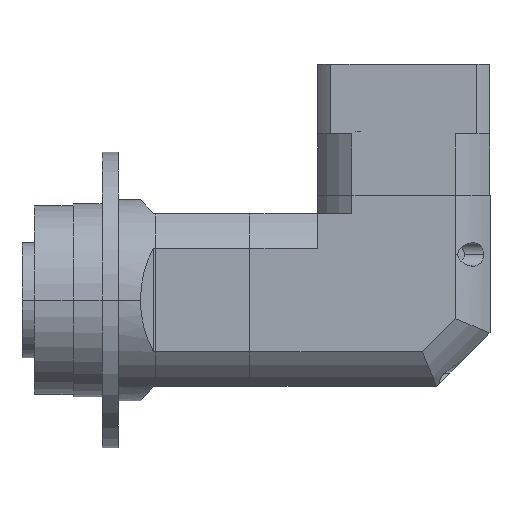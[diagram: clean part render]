
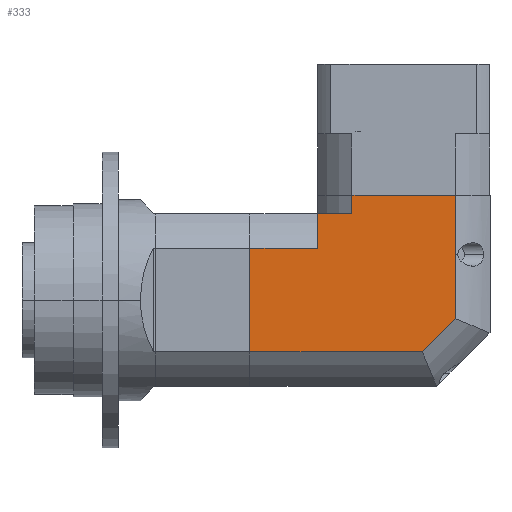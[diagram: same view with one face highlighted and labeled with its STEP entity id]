
A CAD part, left-side view. The second image highlights one B-rep face of the part: STEP entity #333.
In plain terms, the highlighted planar face has unit normal (-1, 0, 0) as drawn and (1, 0, 0) by its records, which use the part's own axes.
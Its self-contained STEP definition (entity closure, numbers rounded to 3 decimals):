
#333 = ADVANCED_FACE ( 'NONE', ( #1412 ), #4387, .F. ) ;
#488 = CARTESIAN_POINT ( 'NONE',  ( 21., 21., 58.5 ) ) ;
#715 = VECTOR ( 'NONE', #6143, 1000. ) ;
#862 = EDGE_CURVE ( 'NONE', #7611, #3794, #4829, .T. ) ;
#1037 = CARTESIAN_POINT ( 'NONE',  ( 21., 21., 58.5 ) ) ;
#1039 = VECTOR ( 'NONE', #4959, 1000. ) ;
#1225 = EDGE_CURVE ( 'NONE', #7333, #3462, #4112, .T. ) ;
#1227 = VECTOR ( 'NONE', #2080, 1000. ) ;
#1270 = CARTESIAN_POINT ( 'NONE',  ( 21., 21., 33.619 ) ) ;
#1364 = ORIENTED_EDGE ( 'NONE', *, *, #3768, .F. ) ;
#1412 = FACE_OUTER_BOUND ( 'NONE', #8045, .T. ) ;
#1999 = EDGE_CURVE ( 'NONE', #3794, #7534, #4913, .T. ) ;
#2030 = VECTOR ( 'NONE', #4488, 1000. ) ;
#2066 = CARTESIAN_POINT ( 'NONE',  ( 21., 25.5, 8.381 ) ) ;
#2080 = DIRECTION ( 'NONE',  ( 0., -1., 0. ) ) ;
#2549 = CARTESIAN_POINT ( 'NONE',  ( 21., 25.5, 0. ) ) ;
#2896 = LINE ( 'NONE', #5176, #1227 ) ;
#3037 = VERTEX_POINT ( 'NONE', #3441 ) ;
#3041 = CARTESIAN_POINT ( 'NONE',  ( 21., -12.619, 16.471 ) ) ;
#3287 = DIRECTION ( 'NONE',  ( 0., 0., 1. ) ) ;
#3370 = EDGE_CURVE ( 'NONE', #6197, #4407, #8193, .T. ) ;
#3409 = LINE ( 'NONE', #6857, #5493 ) ;
#3441 = CARTESIAN_POINT ( 'NONE',  ( 21., 12.619, 42. ) ) ;
#3462 = VERTEX_POINT ( 'NONE', #1270 ) ;
#3581 = CARTESIAN_POINT ( 'NONE',  ( 21., 12.619, 58.5 ) ) ;
#3748 = LINE ( 'NONE', #8051, #8132 ) ;
#3768 = EDGE_CURVE ( 'NONE', #3037, #7333, #6983, .T. ) ;
#3794 = VERTEX_POINT ( 'NONE', #3041 ) ;
#3819 = ORIENTED_EDGE ( 'NONE', *, *, #1225, .F. ) ;
#4048 = CARTESIAN_POINT ( 'NONE',  ( 21., 21., 42. ) ) ;
#4069 = CARTESIAN_POINT ( 'NONE',  ( 21., 25.5, 33.619 ) ) ;
#4112 = LINE ( 'NONE', #1037, #715 ) ;
#4159 = VECTOR ( 'NONE', #5468, 1000. ) ;
#4199 = EDGE_CURVE ( 'NONE', #4407, #7611, #2896, .T. ) ;
#4260 = AXIS2_PLACEMENT_3D ( 'NONE', #488, #7666, #7689 ) ;
#4299 = CARTESIAN_POINT ( 'NONE',  ( 21., 21., 42. ) ) ;
#4387 = PLANE ( 'NONE',  #4260 ) ;
#4407 = VERTEX_POINT ( 'NONE', #2066 ) ;
#4488 = DIRECTION ( 'NONE',  ( 0., 1., 0. ) ) ;
#4526 = CARTESIAN_POINT ( 'NONE',  ( 21., -12.619, 58.5 ) ) ;
#4646 = ORIENTED_EDGE ( 'NONE', *, *, #4199, .F. ) ;
#4829 = LINE ( 'NONE', #7970, #4159 ) ;
#4856 = ORIENTED_EDGE ( 'NONE', *, *, #1999, .F. ) ;
#4913 = LINE ( 'NONE', #4526, #6511 ) ;
#4959 = DIRECTION ( 'NONE',  ( 0., 1., 0. ) ) ;
#5090 = DIRECTION ( 'NONE',  ( 0., 0., -1. ) ) ;
#5176 = CARTESIAN_POINT ( 'NONE',  ( 21., -21., 8.381 ) ) ;
#5276 = VECTOR ( 'NONE', #5090, 1000. ) ;
#5437 = EDGE_CURVE ( 'NONE', #8162, #3037, #3748, .T. ) ;
#5468 = DIRECTION ( 'NONE',  ( 0., -0.707, 0.707 ) ) ;
#5493 = VECTOR ( 'NONE', #8122, 1000. ) ;
#5602 = ORIENTED_EDGE ( 'NONE', *, *, #3370, .F. ) ;
#6029 = EDGE_CURVE ( 'NONE', #3462, #6197, #7214, .T. ) ;
#6143 = DIRECTION ( 'NONE',  ( 0., 0., -1. ) ) ;
#6197 = VERTEX_POINT ( 'NONE', #4069 ) ;
#6336 = CARTESIAN_POINT ( 'NONE',  ( 21., 21., 33.619 ) ) ;
#6362 = ORIENTED_EDGE ( 'NONE', *, *, #6453, .F. ) ;
#6372 = ORIENTED_EDGE ( 'NONE', *, *, #5437, .F. ) ;
#6453 = EDGE_CURVE ( 'NONE', #7534, #8162, #3409, .T. ) ;
#6511 = VECTOR ( 'NONE', #3287, 1000. ) ;
#6715 = ORIENTED_EDGE ( 'NONE', *, *, #862, .F. ) ;
#6818 = CARTESIAN_POINT ( 'NONE',  ( 21., -4.529, 8.381 ) ) ;
#6857 = CARTESIAN_POINT ( 'NONE',  ( 21., 21., 58.5 ) ) ;
#6983 = LINE ( 'NONE', #4299, #1039 ) ;
#7214 = LINE ( 'NONE', #6336, #2030 ) ;
#7333 = VERTEX_POINT ( 'NONE', #4048 ) ;
#7534 = VERTEX_POINT ( 'NONE', #7998 ) ;
#7611 = VERTEX_POINT ( 'NONE', #6818 ) ;
#7666 = DIRECTION ( 'NONE',  ( -1., 0., 0. ) ) ;
#7689 = DIRECTION ( 'NONE',  ( 0., -1., 0. ) ) ;
#7964 = ORIENTED_EDGE ( 'NONE', *, *, #6029, .F. ) ;
#7970 = CARTESIAN_POINT ( 'NONE',  ( 21., -4.529, 8.381 ) ) ;
#7998 = CARTESIAN_POINT ( 'NONE',  ( 21., -12.619, 58.5 ) ) ;
#8045 = EDGE_LOOP ( 'NONE', ( #6362, #4856, #6715, #4646, #5602, #7964, #3819, #1364, #6372 ) ) ;
#8051 = CARTESIAN_POINT ( 'NONE',  ( 21., 12.619, 58.5 ) ) ;
#8122 = DIRECTION ( 'NONE',  ( 0., 1., 0. ) ) ;
#8132 = VECTOR ( 'NONE', #8150, 1000. ) ;
#8150 = DIRECTION ( 'NONE',  ( 0., 0., -1. ) ) ;
#8162 = VERTEX_POINT ( 'NONE', #3581 ) ;
#8193 = LINE ( 'NONE', #2549, #5276 ) ;
